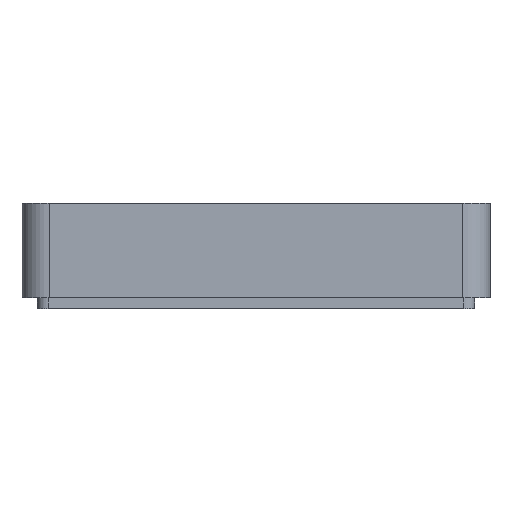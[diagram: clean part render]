
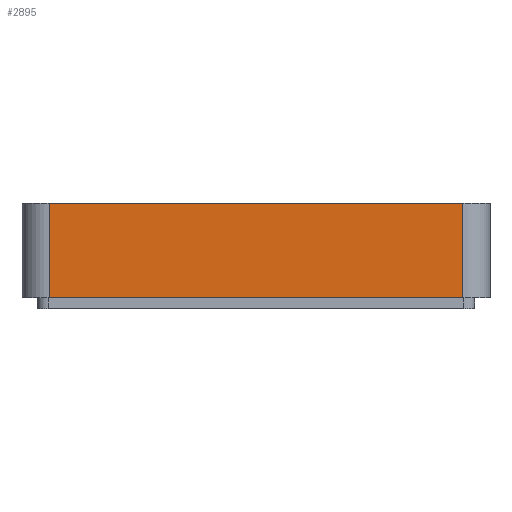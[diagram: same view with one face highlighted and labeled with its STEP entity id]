
A CAD part, front view. The second image highlights one B-rep face of the part: STEP entity #2895.
In plain terms, the highlighted planar face has unit normal (0, -1, 0).
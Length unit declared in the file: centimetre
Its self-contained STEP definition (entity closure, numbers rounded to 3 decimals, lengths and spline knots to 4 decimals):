
#131=PLANE('',#3225);
#288=FACE_OUTER_BOUND('',#464,.T.);
#464=EDGE_LOOP('',(#2659,#2660,#2661,#2662));
#652=LINE('',#5007,#909);
#717=LINE('',#5198,#974);
#726=LINE('',#5223,#983);
#727=LINE('',#5225,#984);
#909=VECTOR('',#3854,1.);
#974=VECTOR('',#4077,1.);
#983=VECTOR('',#4112,1.);
#984=VECTOR('',#4115,1.);
#1370=VERTEX_POINT('',#5004);
#1371=VERTEX_POINT('',#5006);
#1418=VERTEX_POINT('',#5197);
#1421=VERTEX_POINT('',#5221);
#1730=EDGE_CURVE('',#1371,#1370,#652,.T.);
#1826=EDGE_CURVE('',#1371,#1418,#717,.T.);
#1838=EDGE_CURVE('',#1370,#1421,#726,.T.);
#1839=EDGE_CURVE('',#1418,#1421,#727,.T.);
#2659=ORIENTED_EDGE('',*,*,#1838,.T.);
#2660=ORIENTED_EDGE('',*,*,#1839,.F.);
#2661=ORIENTED_EDGE('',*,*,#1826,.F.);
#2662=ORIENTED_EDGE('',*,*,#1730,.T.);
#2895=ADVANCED_FACE('',(#288),#131,.T.);
#3225=AXIS2_PLACEMENT_3D('',#5224,#4113,#4114);
#3854=DIRECTION('',(1.,0.,0.));
#4077=DIRECTION('',(0.,0.,1.));
#4112=DIRECTION('',(0.,0.,1.));
#4113=DIRECTION('center_axis',(0.,-1.,0.));
#4114=DIRECTION('ref_axis',(1.,0.,0.));
#4115=DIRECTION('',(1.,0.,0.));
#5004=CARTESIAN_POINT('',(3.8,-5.2,2.76));
#5006=CARTESIAN_POINT('',(-3.8,-5.2,2.76));
#5007=CARTESIAN_POINT('',(-3.8,-5.2,2.76));
#5197=CARTESIAN_POINT('',(-3.8,-5.2,4.49));
#5198=CARTESIAN_POINT('',(-3.8,-5.2,2.76));
#5221=CARTESIAN_POINT('',(3.8,-5.2,4.49));
#5223=CARTESIAN_POINT('',(3.8,-5.2,2.76));
#5224=CARTESIAN_POINT('Origin',(-3.8,-5.2,2.76));
#5225=CARTESIAN_POINT('',(-3.8,-5.2,4.49));
